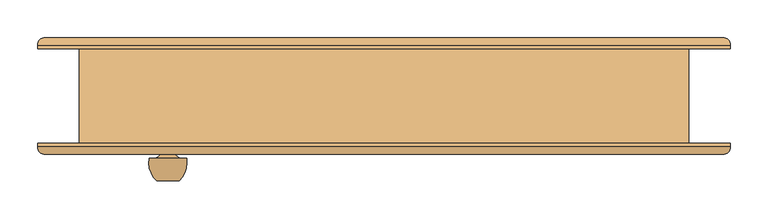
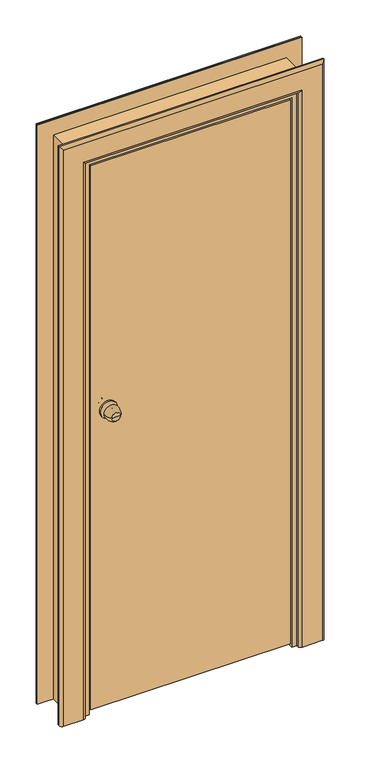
"""IFC4 building model written with IfcOpenShell, lengths in millimetres: door geometry, Внутренняя дверь 1-Навесная - 6629-88 : ДГ 21-8  ГОСТ 6629-88."""

from ifc_helpers import new_model, si_unit, point, frame, origin, place, context, project, spatial, polyline, circle_curve, ellipse_curve, trimmed, outline, extrude, faceted_brep, source, transform, mapped, element, save
from ifc_brep_helpers import plane_surface, cylinder_surface, revolved_surface, advanced_brep


def door_fb527220(model_context):
    return source(origin(), model_context, "Body", "SolidModel", [
        advanced_brep(
        [(-272.0, -112.5, 1100.0), (-302.0, -112.5, 1100.0), (-287.0, -112.5, 1100.0), (-262.0, -82.5, 1100.0), (-312.0, -82.5, 1100.0), (-269.0, -82.5, 1100.0), (-305.0, -82.5, 1100.0), (-277.0, -74.5, 1100.0), (-297.0, -74.5, 1100.0), (-277.0, -68.5, 1100.0), (-297.0, -68.5, 1100.0), (-317.0, -68.5, 1100.0), (-257.0, -68.5, 1100.0), (-317.0, -62.5, 1100.0), (-257.0, -62.5, 1100.0)],
        [
            (0, 1, circle_curve(frame((-287.0, -112.5, 1100.0), z_axis=(0.0, -1.0, 0.0), x_axis=(-1.0, 0.0, 0.0)), 15.0)),
            (1, 2),
            (2, 0),
            (1, 0, circle_curve(frame((-287.0, -112.5, 1100.0), z_axis=(0.0, -1.0, 0.0), x_axis=(-1.0, 0.0, 0.0)), 15.0)),
            (0, 3, circle_curve(frame((-296.6226265, -87.6257912, 1100.0), z_axis=(0.0, 0.0, 1.0), x_axis=(-1.0, 0.0, 0.0)), 35.0)),
            (3, 4, circle_curve(frame((-287.0, -82.5, 1100.0), z_axis=(0.0, -1.0, 0.0), x_axis=(-1.0, 0.0, 0.0)), 25.0)),
            (4, 1, circle_curve(frame((-277.3773735, -87.6257912, 1100.0), z_axis=(0.0, 0.0, 1.0), x_axis=(1.0, 0.0, 0.0)), 35.0)),
            (4, 3, circle_curve(frame((-287.0, -82.5, 1100.0), z_axis=(0.0, -1.0, 0.0), x_axis=(-1.0, 0.0, 0.0)), 25.0)),
            (3, 5),
            (5, 6, circle_curve(frame((-287.0, -82.5, 1100.0), z_axis=(0.0, -1.0, 0.0), x_axis=(-1.0, 0.0, 0.0)), 18.0)),
            (6, 4),
            (6, 5, circle_curve(frame((-287.0, -82.5, 1100.0), z_axis=(0.0, -1.0, 0.0), x_axis=(-1.0, 0.0, 0.0)), 18.0)),
            (5, 7, circle_curve(frame((-269.0, -74.5, 1100.0), z_axis=(0.0, 0.0, -1.0), x_axis=(-1.0, 0.0, 0.0)), 8.0)),
            (7, 8, circle_curve(frame((-287.0, -74.5, 1100.0), z_axis=(0.0, -1.0, 0.0), x_axis=(-1.0, 0.0, 0.0)), 10.0)),
            (8, 6, circle_curve(frame((-305.0, -74.5, 1100.0), z_axis=(0.0, 0.0, -1.0), x_axis=(1.0, 0.0, 0.0)), 8.0)),
            (8, 7, circle_curve(frame((-287.0, -74.5, 1100.0), z_axis=(0.0, -1.0, 0.0), x_axis=(-1.0, 0.0, 0.0)), 10.0)),
            (7, 9),
            (9, 10, circle_curve(frame((-287.0, -68.5, 1100.0), z_axis=(0.0, -1.0, 0.0), x_axis=(-1.0, 0.0, 0.0)), 10.0)),
            (10, 8),
            (10, 9, circle_curve(frame((-287.0, -68.5, 1100.0), z_axis=(0.0, -1.0, 0.0), x_axis=(-1.0, 0.0, 0.0)), 10.0)),
            (11, 12, circle_curve(frame((-287.0, -68.5, 1100.0), z_axis=(0.0, -1.0, 0.0), x_axis=(1.0, 0.0, 0.0)), 30.0)),
            (12, 11, circle_curve(frame((-287.0, -68.5, 1100.0), z_axis=(0.0, -1.0, 0.0), x_axis=(1.0, 0.0, 0.0)), 30.0)),
            (13, 14, circle_curve(frame((-287.0, -62.5, 1100.0), z_axis=(0.0, 1.0, 0.0), x_axis=(1.0, 0.0, 0.0)), 30.0)),
            (14, 13, circle_curve(frame((-287.0, -62.5, 1100.0), z_axis=(0.0, 1.0, 0.0), x_axis=(1.0, 0.0, 0.0)), 30.0)),
            (11, 13),
            (14, 12),
        ],
        [
            plane_surface(frame((-287.0, -112.5, 1100.0), z_axis=(0.0, -1.0, 0.0), x_axis=(-1.0, 0.0, 0.0))),
            revolved_surface(trimmed(ellipse_curve(frame((-277.3773735, -87.6257912, 1100.0), z_axis=(0.0, 0.0, -1.0), x_axis=(1.0, 0.0, 0.0)), 35.0, 35.0), [point((-302.0, -112.5, 1100.0))], [point((-312.0, -82.5, 1100.0))], True, "CARTESIAN"), (-287.0, -142.5, 1100.0), (0.0, 1.0, 0.0)),
            plane_surface(frame((-287.0, -82.5, 1100.0), z_axis=(0.0, 1.0, 0.0), x_axis=(-1.0, 0.0, 0.0))),
            revolved_surface(trimmed(ellipse_curve(frame((-305.0, -74.5, 1100.0), z_axis=(0.0, 0.0, 1.0), x_axis=(1.0, 0.0, 0.0)), 8.0, 8.0), [point((-305.0, -82.5, 1100.0))], [point((-297.0, -74.5, 1100.0))], True, "CARTESIAN"), (-287.0, -142.5, 1100.0), (0.0, 1.0, 0.0)),
            cylinder_surface(frame((-287.0, -142.5, 1100.0), z_axis=(0.0, 1.0, 0.0), x_axis=(-1.0, 0.0, 0.0)), 10.0),
            plane_surface(frame((-257.0, -68.5, 1100.0), z_axis=(0.0, -1.0, 0.0), x_axis=(0.0, 0.0, 1.0))),
            plane_surface(frame((-257.0, -62.5, 1100.0), z_axis=(0.0, 1.0, 0.0), x_axis=(0.0, 0.0, -1.0))),
            cylinder_surface(frame((-287.0, -62.5, 1100.0), z_axis=(0.0, -1.0, 0.0), x_axis=(1.0, 0.0, 0.0)), 30.0),
        ],
        [
            (0, [[1, 2, 3]]),
            (0, [[-2, 4, -3]]),
            (1, [[-1, 5, 6, 7]]),
            (1, [[-4, -7, 8, -5]]),
            (2, [[-6, 9, 10, 11]]),
            (2, [[-8, -11, 12, -9]]),
            (3, [[-10, 13, 14, 15]]),
            (3, [[-12, -15, 16, -13]]),
            (4, [[-14, 17, 18, 19]]),
            (4, [[-16, -19, 20, -17]]),
            (5, [[21, 22], [-18, -20]]),
            (6, [[23, 24]]),
            (7, [[-21, 25, -24, 26]]),
            (7, [[-22, -26, -23, -25]]),
        ],
    ),
        advanced_brep(
        [(-302.0, 24.5, 1100.0), (-272.0, 24.5, 1100.0), (-287.0, 24.5, 1100.0), (-312.0, -5.5, 1100.0), (-262.0, -5.5, 1100.0), (-305.0, -5.5, 1100.0), (-269.0, -5.5, 1100.0), (-297.0, -13.5, 1100.0), (-277.0, -13.5, 1100.0), (-297.0, -19.5, 1100.0), (-277.0, -19.5, 1100.0), (-257.0, -19.5, 1100.0), (-317.0, -19.5, 1100.0), (-257.0, -25.5, 1100.0), (-317.0, -25.5, 1100.0)],
        [
            (0, 1, circle_curve(frame((-287.0, 24.5, 1100.0), z_axis=(0.0, 1.0, 0.0), x_axis=(1.0, 0.0, 0.0)), 15.0)),
            (1, 2),
            (2, 0),
            (1, 0, circle_curve(frame((-287.0, 24.5, 1100.0), z_axis=(0.0, 1.0, 0.0), x_axis=(1.0, 0.0, 0.0)), 15.0)),
            (0, 3, circle_curve(frame((-277.3773735, -0.3742088, 1100.0), z_axis=(0.0, 0.0, 1.0), x_axis=(1.0, 0.0, 0.0)), 35.0)),
            (3, 4, circle_curve(frame((-287.0, -5.5, 1100.0), z_axis=(0.0, 1.0, 0.0), x_axis=(1.0, 0.0, 0.0)), 25.0)),
            (4, 1, circle_curve(frame((-296.6226265, -0.3742088, 1100.0), z_axis=(0.0, 0.0, 1.0), x_axis=(-1.0, 0.0, 0.0)), 35.0)),
            (4, 3, circle_curve(frame((-287.0, -5.5, 1100.0), z_axis=(0.0, 1.0, 0.0), x_axis=(1.0, 0.0, 0.0)), 25.0)),
            (3, 5),
            (5, 6, circle_curve(frame((-287.0, -5.5, 1100.0), z_axis=(0.0, 1.0, 0.0), x_axis=(1.0, 0.0, 0.0)), 18.0)),
            (6, 4),
            (6, 5, circle_curve(frame((-287.0, -5.5, 1100.0), z_axis=(0.0, 1.0, 0.0), x_axis=(1.0, 0.0, 0.0)), 18.0)),
            (5, 7, circle_curve(frame((-305.0, -13.5, 1100.0), z_axis=(0.0, 0.0, -1.0), x_axis=(1.0, 0.0, 0.0)), 8.0)),
            (7, 8, circle_curve(frame((-287.0, -13.5, 1100.0), z_axis=(0.0, 1.0, 0.0), x_axis=(1.0, 0.0, 0.0)), 10.0)),
            (8, 6, circle_curve(frame((-269.0, -13.5, 1100.0), z_axis=(0.0, 0.0, -1.0), x_axis=(-1.0, 0.0, 0.0)), 8.0)),
            (8, 7, circle_curve(frame((-287.0, -13.5, 1100.0), z_axis=(0.0, 1.0, 0.0), x_axis=(1.0, 0.0, 0.0)), 10.0)),
            (7, 9),
            (9, 10, circle_curve(frame((-287.0, -19.5, 1100.0), z_axis=(0.0, 1.0, 0.0), x_axis=(1.0, 0.0, 0.0)), 10.0)),
            (10, 8),
            (10, 9, circle_curve(frame((-287.0, -19.5, 1100.0), z_axis=(0.0, 1.0, 0.0), x_axis=(1.0, 0.0, 0.0)), 10.0)),
            (11, 12, circle_curve(frame((-287.0, -19.5, 1100.0), z_axis=(0.0, 1.0, 0.0), x_axis=(-1.0, 0.0, 0.0)), 30.0)),
            (12, 11, circle_curve(frame((-287.0, -19.5, 1100.0), z_axis=(0.0, 1.0, 0.0), x_axis=(-1.0, 0.0, 0.0)), 30.0)),
            (13, 14, circle_curve(frame((-287.0, -25.5, 1100.0), z_axis=(0.0, -1.0, 0.0), x_axis=(-1.0, 0.0, 0.0)), 30.0)),
            (14, 13, circle_curve(frame((-287.0, -25.5, 1100.0), z_axis=(0.0, -1.0, 0.0), x_axis=(-1.0, 0.0, 0.0)), 30.0)),
            (11, 13),
            (14, 12),
        ],
        [
            plane_surface(frame((-287.0, 24.5, 1100.0), z_axis=(0.0, 1.0, 0.0), x_axis=(1.0, 0.0, 0.0))),
            revolved_surface(trimmed(ellipse_curve(frame((-296.6226265, -0.3742088, 1100.0), z_axis=(0.0, 0.0, -1.0), x_axis=(-1.0, 0.0, 0.0)), 35.0, 35.0), [point((-272.0, 24.5, 1100.0))], [point((-262.0, -5.5, 1100.0))], True, "CARTESIAN"), (-287.0, 54.5, 1100.0), (0.0, -1.0, 0.0)),
            plane_surface(frame((-287.0, -5.5, 1100.0), z_axis=(0.0, -1.0, 0.0), x_axis=(1.0, 0.0, 0.0))),
            revolved_surface(trimmed(ellipse_curve(frame((-269.0, -13.5, 1100.0), z_axis=(0.0, 0.0, 1.0), x_axis=(-1.0, 0.0, 0.0)), 8.0, 8.0), [point((-269.0, -5.5, 1100.0))], [point((-277.0, -13.5, 1100.0))], True, "CARTESIAN"), (-287.0, 54.5, 1100.0), (0.0, -1.0, 0.0)),
            cylinder_surface(frame((-287.0, 54.5, 1100.0), z_axis=(0.0, -1.0, 0.0), x_axis=(1.0, 0.0, 0.0)), 10.0),
            plane_surface(frame((-317.0, -19.5, 1100.0), z_axis=(0.0, 1.0, 0.0), x_axis=(0.0, 0.0, 1.0))),
            plane_surface(frame((-317.0, -25.5, 1100.0), z_axis=(0.0, -1.0, 0.0), x_axis=(0.0, 0.0, -1.0))),
            cylinder_surface(frame((-287.0, -25.5, 1100.0), z_axis=(0.0, 1.0, 0.0), x_axis=(-1.0, 0.0, 0.0)), 30.0),
        ],
        [
            (0, [[1, 2, 3]]),
            (0, [[-2, 4, -3]]),
            (1, [[-1, 5, 6, 7]]),
            (1, [[-4, -7, 8, -5]]),
            (2, [[-6, 9, 10, 11]]),
            (2, [[-8, -11, 12, -9]]),
            (3, [[-10, 13, 14, 15]]),
            (3, [[-12, -15, 16, -13]]),
            (4, [[-14, 17, 18, 19]]),
            (4, [[-16, -19, 20, -17]]),
            (5, [[21, 22], [-18, -20]]),
            (6, [[23, 24]]),
            (7, [[-21, 25, -24, 26]]),
            (7, [[-22, -26, -23, -25]]),
        ],
    ),
        extrude(outline(polyline([(0.0, 370.0), (0.0, 385.0), (2050.0, 385.0), (2050.0, -385.0), (0.0, -385.0), (0.0, -370.0), (2035.0, -370.0), (2035.0, 370.0), (0.0, 370.0)])), frame((0.0, 11.5, 0.0), z_axis=(0.0, 1.0, 0.0), x_axis=(0.0, 0.0, 1.0)), (0.0, 0.0, 1.0), 51.0),
        advanced_brep(
        [(-460.0, -62.5, 0.0), (-370.0, -62.5, 0.0), (-370.0, -67.5, 0.0), (-380.0, -77.5, 0.0), (-450.0, -77.5, 0.0), (-460.0, -67.5, 0.0), (-460.0, -62.5, 2125.0), (460.0, -62.5, 2125.0), (460.0, -62.5, 0.0), (370.0, -62.5, 0.0), (370.0, -62.5, 2035.0), (-370.0, -62.5, 2035.0), (-370.0, -67.5, 2035.0), (-380.0, -77.5, 2045.0), (380.0, -77.5, 2045.0), (380.0, -77.5, 0.0), (450.0, -77.5, 0.0), (450.0, -77.5, 2115.0), (-450.0, -77.5, 2115.0), (-460.0, -67.5, 2125.0), (460.0, -67.5, 2125.0), (460.0, -67.5, 0.0), (370.0, -67.5, 0.0), (370.0, -67.5, 2035.0)],
        [
            (0, 1),
            (1, 2),
            (2, 3, circle_curve(frame((-380.0, -67.5, 0.0), z_axis=(0.0, 0.0, -1.0), x_axis=(-1.0, 0.0, 0.0)), 10.0)),
            (3, 4),
            (4, 5, circle_curve(frame((-450.0, -67.5, 0.0), z_axis=(0.0, 0.0, -1.0), x_axis=(-1.0, 0.0, 0.0)), 10.0)),
            (5, 0),
            (0, 6),
            (6, 7),
            (7, 8),
            (8, 9),
            (9, 10),
            (10, 11),
            (11, 1),
            (11, 12),
            (12, 2),
            (12, 13, ellipse_curve(frame((-380.0, -67.5, 2045.0), z_axis=(-0.7071067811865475, 0.0, -0.7071067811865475), x_axis=(0.7071067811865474, 0.0, -0.7071067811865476)), 14.1421356, 10.0)),
            (13, 3),
            (13, 14),
            (14, 15),
            (15, 16),
            (16, 17),
            (17, 18),
            (18, 4),
            (18, 19, ellipse_curve(frame((-450.0, -67.5, 2115.0), z_axis=(-0.7071067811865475, 0.0, -0.7071067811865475), x_axis=(0.7071067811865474, 0.0, -0.7071067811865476)), 14.1421356, 10.0)),
            (19, 5),
            (19, 6),
            (7, 20),
            (20, 21),
            (21, 8),
            (21, 16, circle_curve(frame((450.0, -67.5, 0.0), z_axis=(0.0, 0.0, -1.0), x_axis=(1.0, 0.0, 0.0)), 10.0)),
            (15, 22, circle_curve(frame((380.0, -67.5, 0.0), z_axis=(0.0, 0.0, -1.0), x_axis=(1.0, 0.0, 0.0)), 10.0)),
            (22, 9),
            (23, 10),
            (22, 23),
            (14, 23, ellipse_curve(frame((380.0, -67.5, 2045.0), z_axis=(0.7071067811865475, 0.0, -0.7071067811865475), x_axis=(0.7071067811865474, 0.0, 0.7071067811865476)), 14.1421356, 10.0)),
            (20, 17, ellipse_curve(frame((450.0, -67.5, 2115.0), z_axis=(0.7071067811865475, 0.0, -0.7071067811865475), x_axis=(0.7071067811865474, 0.0, 0.7071067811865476)), 14.1421356, 10.0)),
            (23, 12),
            (20, 19),
        ],
        [
            plane_surface(frame((-405.0, -62.5, 0.0), z_axis=(0.0, 0.0, -1.0), x_axis=(0.0, 1.0, 0.0))),
            plane_surface(frame((-460.0, -62.5, 0.0), z_axis=(0.0, 1.0, 0.0), x_axis=(0.0, 0.0, 1.0))),
            plane_surface(frame((-370.0, -62.5, 0.0), z_axis=(1.0, 0.0, 0.0), x_axis=(0.0, 0.0, 1.0))),
            cylinder_surface(frame((-380.0, -67.5, 0.0), z_axis=(0.0, 0.0, -1.0), x_axis=(-1.0, 0.0, 0.0)), 10.0),
            plane_surface(frame((-380.0, -77.5, 0.0), z_axis=(0.0, -1.0, 0.0), x_axis=(0.0, 0.0, 1.0))),
            cylinder_surface(frame((-450.0, -67.5, 0.0), z_axis=(0.0, 0.0, -1.0), x_axis=(-1.0, 0.0, 0.0)), 10.0),
            plane_surface(frame((-460.0, -67.5, 0.0), z_axis=(-1.0, 0.0, 0.0), x_axis=(0.0, 0.0, 1.0))),
            plane_surface(frame((460.0, -67.5, 2125.0), z_axis=(1.0, 0.0, 0.0), x_axis=(0.0, 0.0, -1.0))),
            plane_surface(frame((405.0, -62.5, 0.0), z_axis=(0.0, 0.0, -1.0), x_axis=(0.0, 1.0, 0.0))),
            plane_surface(frame((370.0, -62.5, 2035.0), z_axis=(-1.0, 0.0, 0.0), x_axis=(0.0, 0.0, -1.0))),
            cylinder_surface(frame((380.0, -67.5, 2070.0), z_axis=(0.0, 0.0, 1.0), x_axis=(1.0, 0.0, 0.0)), 10.0),
            cylinder_surface(frame((450.0, -67.5, 2070.0), z_axis=(0.0, 0.0, 1.0), x_axis=(1.0, 0.0, 0.0)), 10.0),
            plane_surface(frame((-370.0, -62.5, 2035.0), z_axis=(0.0, 0.0, -1.0), x_axis=(1.0, 0.0, 0.0))),
            cylinder_surface(frame((-405.0, -67.5, 2045.0), z_axis=(-1.0, 0.0, 0.0), x_axis=(0.0, 0.0, 1.0)), 10.0),
            cylinder_surface(frame((-405.0, -67.5, 2115.0), z_axis=(-1.0, 0.0, 0.0), x_axis=(0.0, 0.0, 1.0)), 10.0),
            plane_surface(frame((-460.0, -67.5, 2125.0), z_axis=(0.0, 0.0, 1.0), x_axis=(1.0, 0.0, 0.0))),
        ],
        [
            (0, [[1, 2, 3, 4, 5, 6]]),
            (1, [[-1, 7, 8, 9, 10, 11, 12, 13]]),
            (2, [[-2, -13, 14, 15]]),
            (3, [[-3, -15, 16, 17]]),
            (4, [[-4, -17, 18, 19, 20, 21, 22, 23]]),
            (5, [[-5, -23, 24, 25]]),
            (6, [[-6, -25, 26, -7]]),
            (7, [[27, 28, 29, -9]]),
            (8, [[-29, 30, -20, 31, 32, -10]]),
            (9, [[33, -11, -32, 34]]),
            (10, [[35, -34, -31, -19]]),
            (11, [[36, -21, -30, -28]]),
            (12, [[-14, -12, -33, 37]]),
            (13, [[-16, -37, -35, -18]]),
            (14, [[-24, -22, -36, 38]]),
            (15, [[-26, -38, -27, -8]]),
        ],
    ),
        advanced_brep(
        [(460.0, 62.5, 0.0), (370.0, 62.5, 0.0), (370.0, 67.5, 0.0), (380.0, 77.5, 0.0), (450.0, 77.5, 0.0), (460.0, 67.5, 0.0), (460.0, 62.5, 2125.0), (-460.0, 62.5, 2125.0), (-460.0, 62.5, 0.0), (-370.0, 62.5, 0.0), (-370.0, 62.5, 2035.0), (370.0, 62.5, 2035.0), (370.0, 67.5, 2035.0), (380.0, 77.5, 2045.0), (-380.0, 77.5, 2045.0), (-380.0, 77.5, 0.0), (-450.0, 77.5, 0.0), (-450.0, 77.5, 2115.0), (450.0, 77.5, 2115.0), (460.0, 67.5, 2125.0), (-460.0, 67.5, 2125.0), (-460.0, 67.5, 0.0), (-370.0, 67.5, 0.0), (-370.0, 67.5, 2035.0)],
        [
            (0, 1),
            (1, 2),
            (2, 3, circle_curve(frame((380.0, 67.5, 0.0), z_axis=(0.0, 0.0, -1.0), x_axis=(1.0, 0.0, 0.0)), 10.0)),
            (3, 4),
            (4, 5, circle_curve(frame((450.0, 67.5, 0.0), z_axis=(0.0, 0.0, -1.0), x_axis=(1.0, 0.0, 0.0)), 10.0)),
            (5, 0),
            (0, 6),
            (6, 7),
            (7, 8),
            (8, 9),
            (9, 10),
            (10, 11),
            (11, 1),
            (11, 12),
            (12, 2),
            (12, 13, ellipse_curve(frame((380.0, 67.5, 2045.0), z_axis=(0.7071067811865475, 0.0, -0.7071067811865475), x_axis=(-0.7071067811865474, 0.0, -0.7071067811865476)), 14.1421356, 10.0)),
            (13, 3),
            (13, 14),
            (14, 15),
            (15, 16),
            (16, 17),
            (17, 18),
            (18, 4),
            (18, 19, ellipse_curve(frame((450.0, 67.5, 2115.0), z_axis=(0.7071067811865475, 0.0, -0.7071067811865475), x_axis=(-0.7071067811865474, 0.0, -0.7071067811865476)), 14.1421356, 10.0)),
            (19, 5),
            (19, 6),
            (7, 20),
            (20, 21),
            (21, 8),
            (21, 16, circle_curve(frame((-450.0, 67.5, 0.0), z_axis=(0.0, 0.0, -1.0), x_axis=(-1.0, 0.0, 0.0)), 10.0)),
            (15, 22, circle_curve(frame((-380.0, 67.5, 0.0), z_axis=(0.0, 0.0, -1.0), x_axis=(-1.0, 0.0, 0.0)), 10.0)),
            (22, 9),
            (23, 10),
            (22, 23),
            (14, 23, ellipse_curve(frame((-380.0, 67.5, 2045.0), z_axis=(-0.7071067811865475, 0.0, -0.7071067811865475), x_axis=(-0.7071067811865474, 0.0, 0.7071067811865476)), 14.1421356, 10.0)),
            (20, 17, ellipse_curve(frame((-450.0, 67.5, 2115.0), z_axis=(-0.7071067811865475, 0.0, -0.7071067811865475), x_axis=(-0.7071067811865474, 0.0, 0.7071067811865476)), 14.1421356, 10.0)),
            (23, 12),
            (20, 19),
        ],
        [
            plane_surface(frame((405.0, 62.5, 0.0), z_axis=(0.0, 0.0, -1.0), x_axis=(0.0, -1.0, 0.0))),
            plane_surface(frame((460.0, 62.5, 0.0), z_axis=(0.0, -1.0, 0.0), x_axis=(0.0, 0.0, 1.0))),
            plane_surface(frame((370.0, 62.5, 0.0), z_axis=(-1.0, 0.0, 0.0), x_axis=(0.0, 0.0, 1.0))),
            cylinder_surface(frame((380.0, 67.5, 0.0), z_axis=(0.0, 0.0, -1.0), x_axis=(1.0, 0.0, 0.0)), 10.0),
            plane_surface(frame((380.0, 77.5, 0.0), z_axis=(0.0, 1.0, 0.0), x_axis=(0.0, 0.0, 1.0))),
            cylinder_surface(frame((450.0, 67.5, 0.0), z_axis=(0.0, 0.0, -1.0), x_axis=(1.0, 0.0, 0.0)), 10.0),
            plane_surface(frame((460.0, 67.5, 0.0), z_axis=(1.0, 0.0, 0.0), x_axis=(0.0, 0.0, 1.0))),
            plane_surface(frame((-460.0, 67.5, 2125.0), z_axis=(-1.0, 0.0, 0.0), x_axis=(0.0, 0.0, -1.0))),
            plane_surface(frame((-405.0, 62.5, 0.0), z_axis=(0.0, 0.0, -1.0), x_axis=(0.0, -1.0, 0.0))),
            plane_surface(frame((-370.0, 62.5, 2035.0), z_axis=(1.0, 0.0, 0.0), x_axis=(0.0, 0.0, -1.0))),
            cylinder_surface(frame((-380.0, 67.5, 2070.0), z_axis=(0.0, 0.0, 1.0), x_axis=(-1.0, 0.0, 0.0)), 10.0),
            cylinder_surface(frame((-450.0, 67.5, 2070.0), z_axis=(0.0, 0.0, 1.0), x_axis=(-1.0, 0.0, 0.0)), 10.0),
            plane_surface(frame((370.0, 62.5, 2035.0), z_axis=(0.0, 0.0, -1.0), x_axis=(-1.0, 0.0, 0.0))),
            cylinder_surface(frame((405.0, 67.5, 2045.0), z_axis=(1.0, 0.0, 0.0), x_axis=(0.0, 0.0, 1.0)), 10.0),
            cylinder_surface(frame((405.0, 67.5, 2115.0), z_axis=(1.0, 0.0, 0.0), x_axis=(0.0, 0.0, 1.0)), 10.0),
            plane_surface(frame((460.0, 67.5, 2125.0), z_axis=(0.0, 0.0, 1.0), x_axis=(-1.0, 0.0, 0.0))),
        ],
        [
            (0, [[1, 2, 3, 4, 5, 6]]),
            (1, [[-1, 7, 8, 9, 10, 11, 12, 13]]),
            (2, [[-2, -13, 14, 15]]),
            (3, [[-3, -15, 16, 17]]),
            (4, [[-4, -17, 18, 19, 20, 21, 22, 23]]),
            (5, [[-5, -23, 24, 25]]),
            (6, [[-6, -25, 26, -7]]),
            (7, [[27, 28, 29, -9]]),
            (8, [[-29, 30, -20, 31, 32, -10]]),
            (9, [[33, -11, -32, 34]]),
            (10, [[35, -34, -31, -19]]),
            (11, [[36, -21, -30, -28]]),
            (12, [[-14, -12, -33, 37]]),
            (13, [[-16, -37, -35, -18]]),
            (14, [[-24, -22, -36, 38]]),
            (15, [[-26, -38, -27, -8]]),
        ],
    ),
        faceted_brep([(340.0, 11.5, 0.0), (385.0, 11.5, 0.0), (385.0, -62.5, 0.0), (352.0, -62.5, 0.0), (352.0, -20.5, 0.0), (340.0, -20.5, 0.0), (340.0, 11.5, 2005.0), (-340.0, 11.5, 2005.0), (-340.0, 11.5, 0.0), (-385.0, 11.5, 0.0), (-385.0, 11.5, 2050.0), (385.0, 11.5, 2050.0), (385.0, -62.5, 2050.0), (-385.0, -62.5, 2050.0), (-385.0, -62.5, 0.0), (-352.0, -62.5, 0.0), (-352.0, -62.5, 2017.0), (352.0, -62.5, 2017.0), (352.0, -20.5, 2017.0), (-352.0, -20.5, 2017.0), (-352.0, -20.5, 0.0), (-340.0, -20.5, 0.0), (-340.0, -20.5, 2005.0), (340.0, -20.5, 2005.0)], [[[0, 1, 2, 3, 4, 5]], [[1, 0, 6, 7, 8, 9, 10, 11]], [[2, 1, 11, 12]], [[3, 2, 12, 13, 14, 15, 16, 17]], [[4, 3, 17, 18]], [[5, 4, 18, 19, 20, 21, 22, 23]], [[0, 5, 23, 6]], [[7, 22, 21, 8]], [[8, 21, 20, 15, 14, 9]], [[13, 10, 9, 14]], [[19, 16, 15, 20]], [[12, 11, 10, 13]], [[18, 17, 16, 19]], [[6, 23, 22, 7]]]),
        extrude(outline(polyline([(0.0, 385.0), (0.0, 405.0), (2070.0, 405.0), (2070.0, -405.0), (0.0, -405.0), (0.0, -385.0), (2050.0, -385.0), (2050.0, 385.0), (0.0, 385.0)])), frame((0.0, -62.5, 0.0), z_axis=(0.0, 1.0, 0.0), x_axis=(0.0, 0.0, 1.0)), (0.0, 0.0, 1.0), 125.0),
        extrude(outline(polyline([(347.0, -25.5), (347.0, -62.5), (-347.0, -62.5), (-347.0, -25.5), (347.0, -25.5)])), frame((0.0, 0.0, 15.0), z_axis=(0.0, 0.0, 1.0), x_axis=(1.0, 0.0, 0.0)), (0.0, 0.0, 1.0), 1997.0),
    ])


if __name__ == "__main__":
    model = new_model("IFC4")
    model_context = context("Model", 3, world=origin())
    ifc_project = project(units=[si_unit("LENGTHUNIT", "METRE", prefix="MILLI")], contexts=[model_context])
    site = spatial("IfcSite", under=ifc_project)
    building = spatial("IfcBuilding", under=site)
    placement = place(None, origin())
    door_shape = door_fb527220(model_context)
    element("IfcDoor", 1, ObjectType="Внутренняя дверь 1-Навесная - 6629-88 : ДГ 21-8  ГОСТ 6629-88", at=placement, inside=building, context=model_context, shape_type="MappedRepresentation", body=[
        mapped(door_shape, transform((0.0, 0.0, 0.0), x_axis=(1.0, 0.0, 0.0), y_axis=(0.0, 1.0, 0.0), z_axis=(0.0, 0.0, 1.0))),
    ])
    save(model, "model.ifc")
